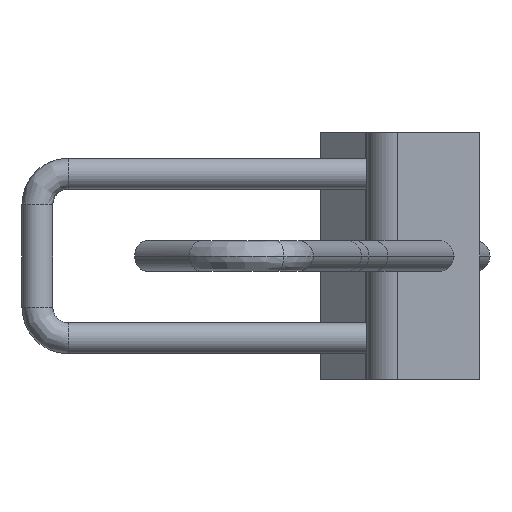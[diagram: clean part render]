
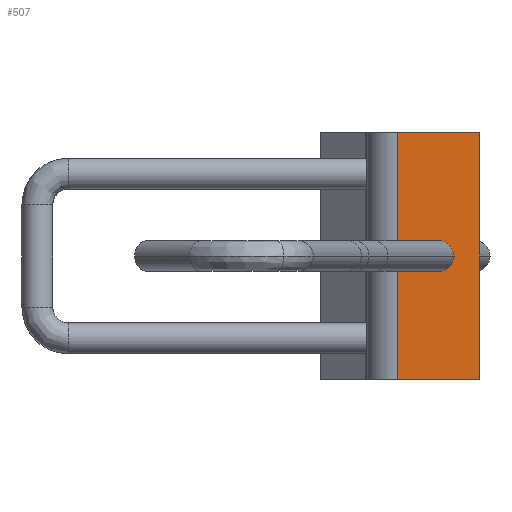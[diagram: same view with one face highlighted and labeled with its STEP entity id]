
A CAD part, left-side view. The second image highlights one B-rep face of the part: STEP entity #507.
In plain terms, the highlighted planar face has unit normal (-1, 0, 0).
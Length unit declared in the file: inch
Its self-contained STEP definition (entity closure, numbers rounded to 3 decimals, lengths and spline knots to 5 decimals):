
#399=EDGE_CURVE('',#1059,#1060,#1061,.T.);
#451=EDGE_CURVE('',#1146,#1147,#1148,.T.);
#507=ADVANCED_FACE('',(#1242,#1243),#1244,.T.);
#769=EDGE_CURVE('',#1060,#1059,#1603,.T.);
#789=EDGE_CURVE('',#1147,#1221,#1625,.T.);
#927=EDGE_CURVE('',#1239,#1221,#1797,.T.);
#971=EDGE_CURVE('',#1146,#1239,#1850,.T.);
#1059=VERTEX_POINT('',#2041);
#1060=VERTEX_POINT('',#2042);
#1061=ELLIPSE('',#2043,0.19058,0.1875);
#1146=VERTEX_POINT('',#2245);
#1147=VERTEX_POINT('',#2246);
#1148=LINE('',#2247,#2248);
#1221=VERTEX_POINT('',#2372);
#1239=VERTEX_POINT('',#2424);
#1242=FACE_OUTER_BOUND('',#2428,.T.);
#1243=FACE_BOUND('',#2429,.T.);
#1244=PLANE('',#2430);
#1603=ELLIPSE('',#3670,0.19058,0.1875);
#1625=LINE('',#3716,#3717);
#1797=LINE('',#4078,#4079);
#1850=LINE('',#4159,#4160);
#2041=CARTESIAN_POINT('',(3.52252,-0.83131,1.5));
#2042=CARTESIAN_POINT('',(3.52252,-0.45015,1.5));
#2043=AXIS2_PLACEMENT_3D('',#4225,#4226,#4227);
#2245=CARTESIAN_POINT('',(3.52252,-1.14678,0.0));
#2246=CARTESIAN_POINT('',(3.52252,-0.14678,0.0));
#2247=CARTESIAN_POINT('',(3.52252,-1.14678,0.0));
#2248=VECTOR('',#4326,1.0);
#2372=CARTESIAN_POINT('',(3.52252,-0.14678,3.0));
#2424=CARTESIAN_POINT('',(3.52252,-1.14678,3.0));
#2428=EDGE_LOOP('',(#4413,#4414,#4415,#4416));
#2429=EDGE_LOOP('',(#4417,#4418));
#2430=AXIS2_PLACEMENT_3D('',#4419,#4420,#4421);
#3670=AXIS2_PLACEMENT_3D('',#4809,#4810,#4811);
#3716=CARTESIAN_POINT('',(3.52252,-0.14678,0.0));
#3717=VECTOR('',#4826,1.0);
#4078=CARTESIAN_POINT('',(3.52252,-1.14678,3.0));
#4079=VECTOR('',#5076,1.0);
#4159=CARTESIAN_POINT('',(3.52252,-1.14678,0.0));
#4160=VECTOR('',#5163,1.0);
#4225=CARTESIAN_POINT('',(3.52252,-0.64073,1.5));
#4226=DIRECTION('',(-1.0,0.0,0.0));
#4227=DIRECTION('',(0.0,-1.0,0.0));
#4326=DIRECTION('',(0.0,1.0,0.0));
#4413=ORIENTED_EDGE('',*,*,#927,.T.);
#4414=ORIENTED_EDGE('',*,*,#789,.F.);
#4415=ORIENTED_EDGE('',*,*,#451,.F.);
#4416=ORIENTED_EDGE('',*,*,#971,.T.);
#4417=ORIENTED_EDGE('',*,*,#769,.F.);
#4418=ORIENTED_EDGE('',*,*,#399,.F.);
#4419=CARTESIAN_POINT('',(3.52252,-0.64678,0.0));
#4420=DIRECTION('',(-1.0,-0.0,0.0));
#4421=DIRECTION('',(0.0,-1.0,-0.0));
#4809=CARTESIAN_POINT('',(3.52252,-0.64073,1.5));
#4810=DIRECTION('',(-1.0,0.0,0.0));
#4811=DIRECTION('',(0.0,-1.0,0.0));
#4826=DIRECTION('',(0.0,0.0,1.0));
#5076=DIRECTION('',(0.0,1.0,0.0));
#5163=DIRECTION('',(0.0,0.0,1.0));
